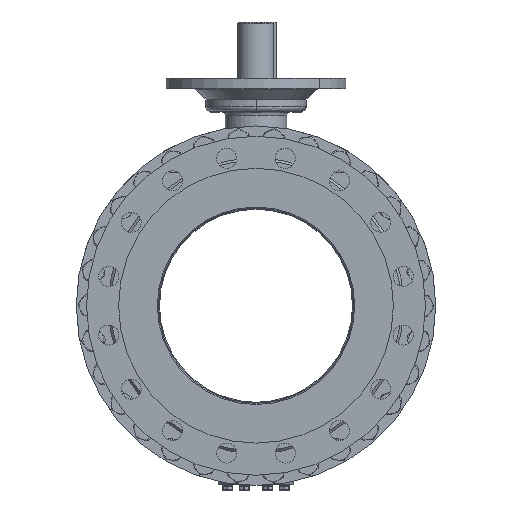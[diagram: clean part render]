
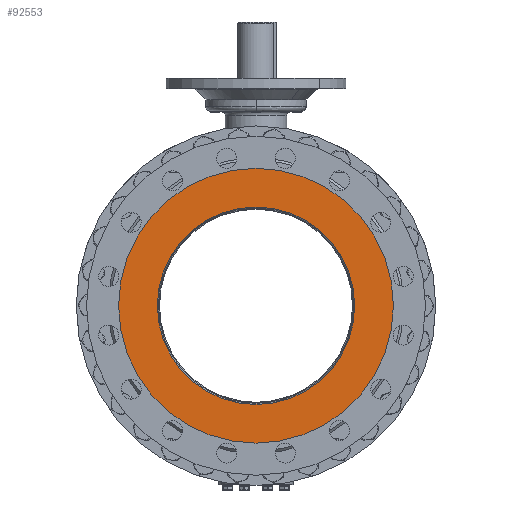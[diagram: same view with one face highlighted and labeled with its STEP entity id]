
A CAD part, left-side view. The second image highlights one B-rep face of the part: STEP entity #92553.
In plain terms, the highlighted planar face has unit normal (-1, 0, 0).
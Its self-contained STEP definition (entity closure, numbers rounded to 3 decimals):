
#15267=CARTESIAN_POINT('',(-419.,0.,0.));
#15268=DIRECTION('',(1.,0.,0.));
#15269=DIRECTION('',(0.,0.,1.));
#15270=AXIS2_PLACEMENT_3D('',#15267,#15268,#15269);
#15272=CARTESIAN_POINT('',(-419.,0.,0.));
#15273=DIRECTION('',(1.,0.,0.));
#15274=DIRECTION('',(0.,0.,-1.));
#15275=AXIS2_PLACEMENT_3D('',#15272,#15273,#15274);
#15277=CARTESIAN_POINT('',(-419.,0.,0.));
#15278=DIRECTION('',(1.,0.,0.));
#15279=DIRECTION('',(0.,0.,1.));
#15280=AXIS2_PLACEMENT_3D('',#15277,#15278,#15279);
#15282=CARTESIAN_POINT('',(-419.,0.,0.));
#15283=DIRECTION('',(-1.,0.,0.));
#15284=DIRECTION('',(0.,0.,1.));
#15285=AXIS2_PLACEMENT_3D('',#15282,#15283,#15284);
#63897=CARTESIAN_POINT('',(-419.,0.,192.2));
#63898=CARTESIAN_POINT('',(-419.,0.,-192.2));
#63899=VERTEX_POINT('',#63897);
#63900=VERTEX_POINT('',#63898);
#63925=CARTESIAN_POINT('',(-419.,0.,267.5));
#63926=CARTESIAN_POINT('',(-419.,0.,-267.5));
#63927=VERTEX_POINT('',#63925);
#63928=VERTEX_POINT('',#63926);
#92538=CARTESIAN_POINT('',(-419.,0.,0.));
#92539=DIRECTION('',(-1.,0.,0.));
#92540=DIRECTION('',(0.,0.,-1.));
#92541=AXIS2_PLACEMENT_3D('',#92538,#92539,#92540);
#92542=PLANE('',#92541);
#92544=ORIENTED_EDGE('',*,*,#92543,.T.);
#92546=ORIENTED_EDGE('',*,*,#92545,.T.);
#92547=EDGE_LOOP('',(#92544,#92546));
#92548=FACE_OUTER_BOUND('',#92547,.F.);
#92549=ORIENTED_EDGE('',*,*,#92517,.F.);
#92550=ORIENTED_EDGE('',*,*,#92531,.T.);
#92551=EDGE_LOOP('',(#92549,#92550));
#92552=FACE_BOUND('',#92551,.F.);
#92553=ADVANCED_FACE('',(#92548,#92552),#92542,.T.);
#15271=CIRCLE('',#15270,267.5);
#15276=CIRCLE('',#15275,267.5);
#15281=CIRCLE('',#15280,192.2);
#15286=CIRCLE('',#15285,192.2);
#92517=EDGE_CURVE('',#63899,#63900,#15281,.T.);
#92531=EDGE_CURVE('',#63899,#63900,#15286,.T.);
#92543=EDGE_CURVE('',#63927,#63928,#15271,.T.);
#92545=EDGE_CURVE('',#63928,#63927,#15276,.T.);
